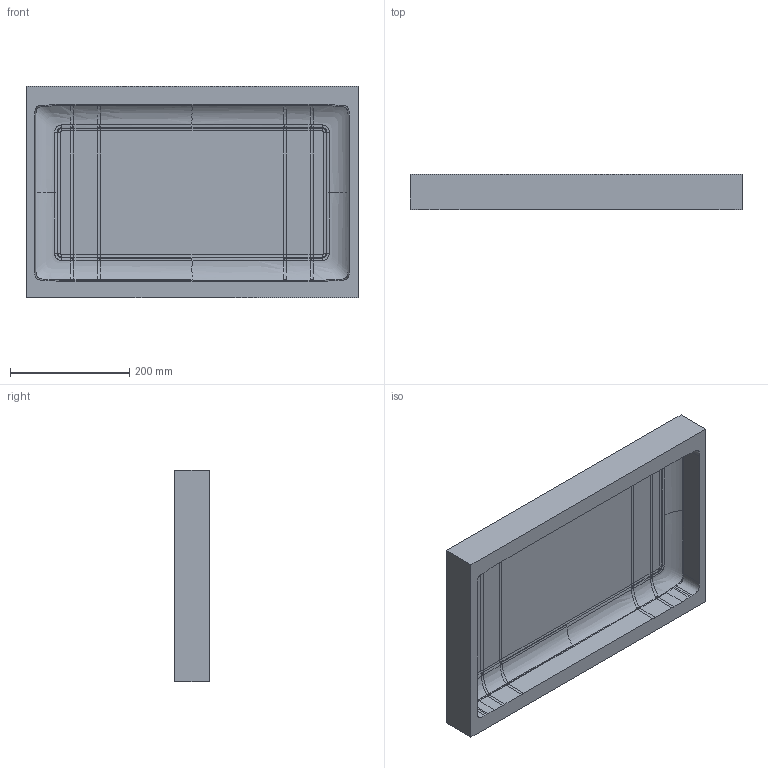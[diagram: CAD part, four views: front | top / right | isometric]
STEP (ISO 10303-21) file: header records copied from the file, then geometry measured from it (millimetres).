
FILE_DESCRIPTION (( 'STEP AP214' ), '1' );
FILE_NAME ('1525 Top Tub.STEP', '2019-02-13T21:00:25', ( '' ), ( '' ), 'SwSTEP 2.0', 'SolidWorks 2016', '' );
FILE_SCHEMA (( 'AUTOMOTIVE_DESIGN' ));
Length unit declared in the file: inch
Products named in the file (1): 1525 Top Tub
Bounding box: 557.83 x 58.8 x 354.79 mm (x, y, z)
Volume: 3853610.9 mm3; surface area: 567115.8 mm2
Topology: 1 solids, 1 shells, 215 faces, 551 edges, 339 vertices
Faces by surface type: bspline 104, cylinder 44, plane 39, torus 28
Entity records: 58308 total; most frequent: CARTESIAN_POINT 53951, ORIENTED_EDGE 1102, DIRECTION 624, EDGE_CURVE 551, VERTEX_POINT 339, B_SPLINE_CURVE_WITH_KNOTS 272, AXIS2_PLACEMENT_3D 248, EDGE_LOOP 216
